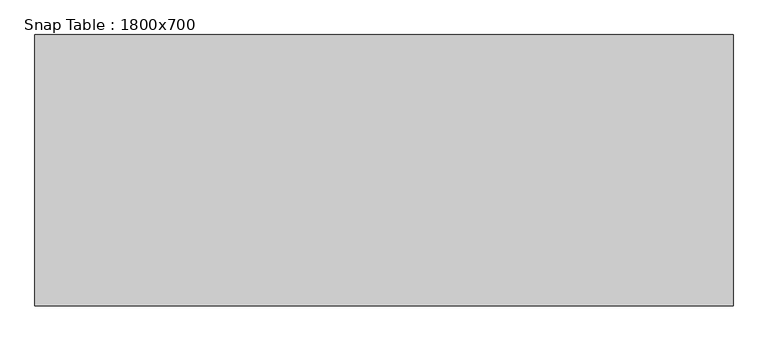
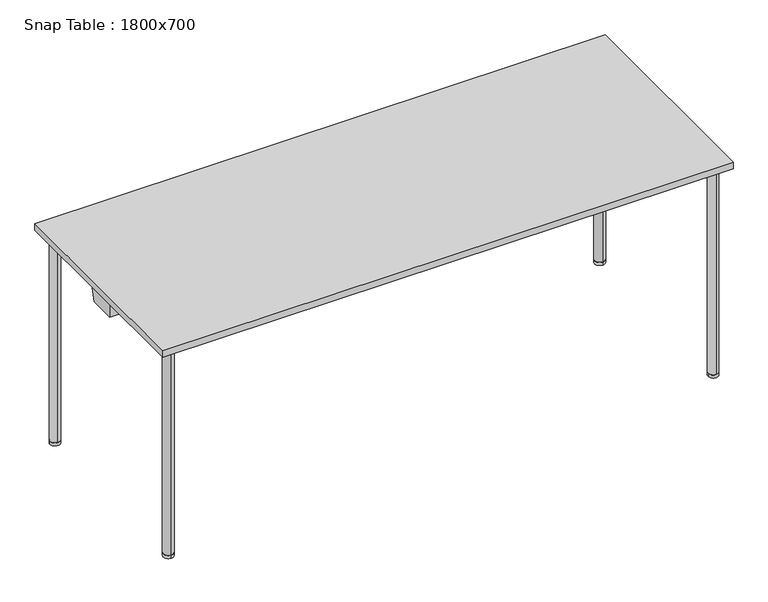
"""IFC4 building model written with IfcOpenShell, lengths in millimetres: furniture geometry, Snap Table : 1800x700."""

from ifc_helpers import new_model, si_unit, point, frame, frame_2d, origin, origin_with_axes, place, context, project, spatial, polyline, circle_curve, ellipse_curve, trimmed, segment, composite_curve, outline, extrude, faceted_brep, source, transform, mapped, element, save
from ifc_brep_helpers import plane_surface, cylinder_surface, revolved_surface, advanced_brep


def snap_table_1800x700_fe42af66(model_context):
    return source(origin(), model_context, "Body", "SolidModel", [
        extrude(outline(composite_curve([segment(trimmed(circle_curve(frame_2d((860.0, -310.0)), 16.0), [point((876.0, -310.0))], [point((844.0, -310.0))], False, "CARTESIAN"), True, "CONTINUOUS"), segment(trimmed(circle_curve(frame_2d((860.0, -310.0)), 16.0), [point((844.0, -310.0))], [point((876.0, -310.0))], False, "CARTESIAN"), True, "CONTINUOUS")], self_intersect=False)), origin_with_axes(), (0.0, 0.0, 1.0), 10.0),
        extrude(outline(composite_curve([segment(trimmed(circle_curve(frame_2d((860.0, 310.0)), 16.0), [point((860.0, 294.0))], [point((860.0, 326.0))], False, "CARTESIAN"), True, "CONTINUOUS"), segment(trimmed(circle_curve(frame_2d((860.0, 310.0)), 16.0), [point((860.0, 326.0))], [point((860.0, 294.0))], False, "CARTESIAN"), True, "CONTINUOUS")], self_intersect=False)), origin_with_axes(), (0.0, 0.0, 1.0), 10.0),
        advanced_brep(
        [(860.0, -326.0, 10.0), (860.0, -294.0, 10.0), (860.0, -326.0, 689.0), (860.0, -294.0, 657.0), (860.0, 326.0, 689.0), (860.0, 294.0, 657.0), (860.0, 326.0, 10.0), (860.0, 294.0, 10.0)],
        [
            (0, 1, circle_curve(frame((860.0, -310.0, 10.0), z_axis=(0.0, 0.0, -1.0), x_axis=(0.0, 1.0, 0.0)), 16.0)),
            (1, 0, circle_curve(frame((860.0, -310.0, 10.0), z_axis=(0.0, 0.0, -1.0), x_axis=(0.0, 1.0, 0.0)), 16.0)),
            (0, 2),
            (2, 3, ellipse_curve(frame((860.0, -310.0, 673.0), z_axis=(0.0, -0.7071067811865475, -0.7071067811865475), x_axis=(0.0, 0.7071067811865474, -0.7071067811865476)), 22.627417, 16.0)),
            (3, 1),
            (3, 2, ellipse_curve(frame((860.0, -310.0, 673.0), z_axis=(0.0, -0.7071067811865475, -0.7071067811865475), x_axis=(0.0, 0.7071067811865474, -0.7071067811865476)), 22.627417, 16.0)),
            (2, 4),
            (4, 5, ellipse_curve(frame((860.0, 310.0, 673.0), z_axis=(0.0, -0.7071067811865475, 0.7071067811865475), x_axis=(0.0, -0.7071067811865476, -0.7071067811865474)), 22.627417, 16.0)),
            (5, 3),
            (5, 4, ellipse_curve(frame((860.0, 310.0, 673.0), z_axis=(0.0, -0.7071067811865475, 0.7071067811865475), x_axis=(0.0, -0.7071067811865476, -0.7071067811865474)), 22.627417, 16.0)),
            (6, 7, circle_curve(frame((860.0, 310.0, 10.0), z_axis=(0.0, 0.0, -1.0), x_axis=(0.0, -1.0, 0.0)), 16.0)),
            (7, 6, circle_curve(frame((860.0, 310.0, 10.0), z_axis=(0.0, 0.0, -1.0), x_axis=(0.0, -1.0, 0.0)), 16.0)),
            (4, 6),
            (7, 5),
        ],
        [
            plane_surface(frame((860.0, -310.0, 10.0), z_axis=(0.0, 0.0, -1.0), x_axis=(-1.0, 0.0, 0.0))),
            cylinder_surface(frame((860.0, -310.0, 10.0), z_axis=(0.0, 0.0, -1.0), x_axis=(0.0, 1.0, 0.0)), 16.0),
            cylinder_surface(frame((860.0, -310.0, 673.0), z_axis=(0.0, -1.0, 0.0), x_axis=(0.0, 0.0, -1.0)), 16.0),
            plane_surface(frame((860.0, 310.0, 10.0), z_axis=(0.0, 0.0, -1.0), x_axis=(-1.0, 0.0, 0.0))),
            cylinder_surface(frame((860.0, 310.0, 673.0), z_axis=(0.0, 0.0, 1.0), x_axis=(0.0, -1.0, 0.0)), 16.0),
        ],
        [
            (0, [[1, 2]]),
            (1, [[-1, 3, 4, 5]]),
            (1, [[-2, -5, 6, -3]]),
            (2, [[-4, 7, 8, 9]]),
            (2, [[-6, -9, 10, -7]]),
            (3, [[11, 12]]),
            (4, [[-8, 13, -12, 14]]),
            (4, [[-10, -14, -11, -13]]),
        ],
    ),
        extrude(outline(composite_curve([segment(trimmed(circle_curve(frame_2d((-860.0470276, 310.0)), 16.0), [point((-876.0470276, 310.0))], [point((-844.0470276, 310.0))], False, "CARTESIAN"), True, "CONTINUOUS"), segment(trimmed(circle_curve(frame_2d((-860.0470276, 310.0)), 16.0), [point((-844.0470276, 310.0))], [point((-876.0470276, 310.0))], False, "CARTESIAN"), True, "CONTINUOUS")], self_intersect=False)), origin_with_axes(), (0.0, 0.0, 1.0), 10.0),
        extrude(outline(composite_curve([segment(trimmed(circle_curve(frame_2d((-860.0470276, -310.0)), 16.0), [point((-860.0470276, -294.0))], [point((-860.0470276, -326.0))], False, "CARTESIAN"), True, "CONTINUOUS"), segment(trimmed(circle_curve(frame_2d((-860.0470276, -310.0)), 16.0), [point((-860.0470276, -326.0))], [point((-860.0470276, -294.0))], False, "CARTESIAN"), True, "CONTINUOUS")], self_intersect=False)), origin_with_axes(), (0.0, 0.0, 1.0), 10.0),
        advanced_brep(
        [(-860.0470276, 326.0, 10.0), (-860.0470276, 294.0, 10.0), (-860.0470276, 326.0, 689.0), (-860.0470276, 294.0, 657.0), (-860.0470276, -326.0, 689.0), (-860.0470276, -294.0, 657.0), (-860.0470276, -326.0, 10.0), (-860.0470276, -294.0, 10.0)],
        [
            (0, 1, circle_curve(frame((-860.0470276, 310.0, 10.0), z_axis=(0.0, 0.0, -1.0), x_axis=(0.0, -1.0, 0.0)), 16.0)),
            (1, 0, circle_curve(frame((-860.0470276, 310.0, 10.0), z_axis=(0.0, 0.0, -1.0), x_axis=(0.0, -1.0, 0.0)), 16.0)),
            (0, 2),
            (2, 3, ellipse_curve(frame((-860.0470276, 310.0, 673.0), z_axis=(0.0, 0.7071067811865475, -0.7071067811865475), x_axis=(0.0, -0.7071067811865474, -0.7071067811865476)), 22.627417, 16.0)),
            (3, 1),
            (3, 2, ellipse_curve(frame((-860.0470276, 310.0, 673.0), z_axis=(0.0, 0.7071067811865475, -0.7071067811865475), x_axis=(0.0, -0.7071067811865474, -0.7071067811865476)), 22.627417, 16.0)),
            (2, 4),
            (4, 5, ellipse_curve(frame((-860.0470276, -310.0, 673.0), z_axis=(0.0, 0.7071067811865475, 0.7071067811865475), x_axis=(0.0, 0.7071067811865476, -0.7071067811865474)), 22.627417, 16.0)),
            (5, 3),
            (5, 4, ellipse_curve(frame((-860.0470276, -310.0, 673.0), z_axis=(0.0, 0.7071067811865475, 0.7071067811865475), x_axis=(0.0, 0.7071067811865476, -0.7071067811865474)), 22.627417, 16.0)),
            (6, 7, circle_curve(frame((-860.0470276, -310.0, 10.0), z_axis=(0.0, 0.0, -1.0), x_axis=(0.0, 1.0, 0.0)), 16.0)),
            (7, 6, circle_curve(frame((-860.0470276, -310.0, 10.0), z_axis=(0.0, 0.0, -1.0), x_axis=(0.0, 1.0, 0.0)), 16.0)),
            (4, 6),
            (7, 5),
        ],
        [
            plane_surface(frame((-860.0470276, 310.0, 10.0), z_axis=(0.0, 0.0, -1.0), x_axis=(1.0, 0.0, 0.0))),
            cylinder_surface(frame((-860.0470276, 310.0, 10.0), z_axis=(0.0, 0.0, -1.0), x_axis=(0.0, -1.0, 0.0)), 16.0),
            cylinder_surface(frame((-860.0470276, 310.0, 673.0), z_axis=(0.0, 1.0, 0.0), x_axis=(0.0, 0.0, -1.0)), 16.0),
            plane_surface(frame((-860.0470276, -310.0, 10.0), z_axis=(0.0, 0.0, -1.0), x_axis=(1.0, 0.0, 0.0))),
            cylinder_surface(frame((-860.0470276, -310.0, 673.0), z_axis=(0.0, 0.0, 1.0), x_axis=(0.0, 1.0, 0.0)), 16.0),
        ],
        [
            (0, [[1, 2]]),
            (1, [[-1, 3, 4, 5]]),
            (1, [[-2, -5, 6, -3]]),
            (2, [[-4, 7, 8, 9]]),
            (2, [[-6, -9, 10, -7]]),
            (3, [[11, 12]]),
            (4, [[-8, 13, -12, 14]]),
            (4, [[-10, -14, -11, -13]]),
        ],
    ),
        extrude(outline(polyline([(900.0, 350.0), (900.0, -350.0), (-900.0, -350.0), (-900.0, 350.0), (900.0, 350.0)])), frame((0.0, 0.0, 698.0), z_axis=(0.0, 0.0, 1.0), x_axis=(1.0, 0.0, 0.0)), (0.0, 0.0, 1.0), 22.0),
        advanced_brep(
        [(-890.8110657, 42.2236058, 643.0), (-857.6910354, 44.5767873, 643.0), (-840.5708933, 36.0824003, 643.0), (840.5710292, 36.0824678, 643.0), (857.6910354, 44.5767873, 643.0), (890.8110657, 42.2236058, 643.0), (890.8110657, -42.2236058, 643.0), (857.6044607, -44.2417031, 643.0), (840.4018781, -36.0497649, 643.0), (-840.4020196, -36.0498323, 643.0), (-857.6044607, -44.2417031, 643.0), (-890.8110657, -42.2236058, 643.0), (-894.8110657, 48.9570516, 698.0), (-894.8110657, -48.9934252, 698.0), (-856.225892, -51.3383995, 698.0), (-834.6205129, -41.049832, 698.0), (834.6203726, -41.0497652, 698.0), (856.225892, -51.3383995, 698.0), (894.8110657, -48.9934252, 698.0), (894.8110657, 48.9570516, 698.0), (856.286594, 51.6942192, 698.0), (834.8989768, 41.0824675, 698.0), (-834.8988421, 41.0824006, 698.0), (-856.286594, 51.6942192, 698.0), (-857.2475737, -46.0789118, 657.2385232), (-876.0, -46.9489596, 673.0), (-856.4614069, -50.125999, 688.6037931), (-844.0, -41.9922101, 673.0), (857.2475737, -46.0789118, 657.2385232), (844.0, -41.9922101, 673.0), (856.4614069, -50.125999, 688.6037931), (876.0, -46.9489596, 673.0), (857.3278029, 46.4175782, 657.2247231), (876.0, 47.1037405, 673.0), (856.5261576, 50.4801582, 688.618336), (844.0, 42.0461233, 673.0), (-857.3278029, 46.4175782, 657.2247231), (-844.0, 42.0461233, 673.0), (-856.5261576, 50.4801582, 688.618336), (-876.0, 47.1037405, 673.0)],
        [
            (0, 1),
            (1, 2),
            (2, 3),
            (3, 4),
            (4, 5),
            (5, 6),
            (6, 7),
            (7, 8),
            (8, 9),
            (9, 10),
            (10, 11),
            (11, 0),
            (12, 13),
            (13, 14),
            (14, 15),
            (15, 16),
            (16, 17),
            (17, 18),
            (18, 19),
            (19, 20),
            (20, 21),
            (21, 22),
            (22, 23),
            (23, 12),
            (11, 13),
            (12, 0),
            (10, 24),
            (24, 25, ellipse_curve(frame((-860.0, -47.9213432, 673.0), z_axis=(0.060176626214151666, 0.9901710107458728, 0.12625427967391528), x_axis=(0.426028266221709, -0.13986196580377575, 0.8938336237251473)), 16.1588249, 16.0)),
            (25, 26, ellipse_curve(frame((-860.0, -47.9213432, 673.0), z_axis=(0.060176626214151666, 0.9901710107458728, 0.12625427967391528), x_axis=(0.426028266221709, -0.13986196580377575, 0.8938336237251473)), 16.1588249, 16.0)),
            (26, 14),
            (9, 15),
            (26, 27, ellipse_curve(frame((-860.0, -49.6114737, 673.0), z_axis=(-0.4265030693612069, 0.8956310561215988, 0.12625427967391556), x_axis=(-0.8587935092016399, -0.44479771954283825, 0.25422174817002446)), 17.8644989, 16.0)),
            (27, 24, ellipse_curve(frame((-860.0, -49.6114737, 673.0), z_axis=(-0.4265030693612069, 0.8956310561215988, 0.12625427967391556), x_axis=(-0.8587935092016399, -0.44479771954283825, 0.25422174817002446)), 17.8644989, 16.0)),
            (8, 16),
            (7, 28),
            (28, 29, ellipse_curve(frame((860.0, -49.6114737, 673.0), z_axis=(0.4265030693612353, 0.8956310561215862, 0.12625427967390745), x_axis=(0.8587935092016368, -0.44479771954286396, 0.2542217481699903)), 17.8644989, 16.0)),
            (29, 30, ellipse_curve(frame((860.0, -49.6114737, 673.0), z_axis=(0.4265030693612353, 0.8956310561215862, 0.12625427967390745), x_axis=(0.8587935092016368, -0.44479771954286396, 0.2542217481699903)), 17.8644989, 16.0)),
            (30, 17),
            (6, 18),
            (30, 31, ellipse_curve(frame((860.0, -47.9213432, 673.0), z_axis=(-0.060176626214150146, 0.9901710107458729, 0.12625427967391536), x_axis=(-0.4260282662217, -0.13986196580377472, 0.8938336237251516)), 16.1588249, 16.0)),
            (31, 28, ellipse_curve(frame((860.0, -47.9213432, 673.0), z_axis=(-0.060176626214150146, 0.9901710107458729, 0.12625427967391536), x_axis=(-0.4260282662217, -0.13986196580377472, 0.8938336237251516)), 16.1588249, 16.0)),
            (5, 19),
            (4, 32),
            (32, 33, ellipse_curve(frame((860.0, 48.2405422, 673.0), z_axis=(-0.07030432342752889, -0.9895034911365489, 0.12625427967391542), x_axis=(0.4813983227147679, -0.14450896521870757, -0.8645072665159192)), 16.1697257, 16.0)),
            (33, 34, ellipse_curve(frame((860.0, 48.2405422, 673.0), z_axis=(-0.07030432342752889, -0.9895034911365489, 0.12625427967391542), x_axis=(0.4813983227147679, -0.14450896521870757, -0.8645072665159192)), 16.1697257, 16.0)),
            (34, 20),
            (3, 21),
            (34, 35, ellipse_curve(frame((860.0, 49.9847369, 673.0), z_axis=(0.4409053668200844, -0.8886294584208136, 0.12625427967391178), x_axis=(-0.8542943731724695, -0.4586258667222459, -0.24462918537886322)), 18.005255, 16.0)),
            (35, 32, ellipse_curve(frame((860.0, 49.9847369, 673.0), z_axis=(0.4409053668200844, -0.8886294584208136, 0.12625427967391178), x_axis=(-0.8542943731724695, -0.4586258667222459, -0.24462918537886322)), 18.005255, 16.0)),
            (2, 22),
            (1, 36),
            (36, 37, ellipse_curve(frame((-860.0, 49.9847369, 673.0), z_axis=(-0.44090536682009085, -0.8886294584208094, 0.12625427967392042), x_axis=(0.8542943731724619, -0.45862586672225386, -0.24462918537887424)), 18.005255, 16.0)),
            (37, 38, ellipse_curve(frame((-860.0, 49.9847369, 673.0), z_axis=(-0.44090536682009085, -0.8886294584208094, 0.12625427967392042), x_axis=(0.8542943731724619, -0.45862586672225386, -0.24462918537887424)), 18.005255, 16.0)),
            (38, 23),
            (38, 39, ellipse_curve(frame((-860.0, 48.2405422, 673.0), z_axis=(0.07030432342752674, -0.9895034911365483, 0.12625427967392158), x_axis=(-0.48139832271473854, -0.14450896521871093, -0.8645072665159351)), 16.1697257, 16.0)),
            (39, 36, ellipse_curve(frame((-860.0, 48.2405422, 673.0), z_axis=(0.07030432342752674, -0.9895034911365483, 0.12625427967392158), x_axis=(-0.48139832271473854, -0.14450896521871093, -0.8645072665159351)), 16.1697257, 16.0)),
            (35, 29),
            (31, 33),
            (39, 25),
            (27, 37),
        ],
        [
            plane_surface(frame((-5e-07, 0.0612866, 643.0), z_axis=(0.0, 0.0, -1.0), x_axis=(0.0, -1.0, 0.0))),
            plane_surface(frame((-5e-07, 0.0586803, 698.0), z_axis=(0.0, 0.0, 1.0), x_axis=(0.0, -1.0, 0.0))),
            plane_surface(frame((-894.8110657, -0.0181868, 698.0), z_axis=(-0.9973658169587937, 0.0, -0.07253569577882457), x_axis=(0.0, 1.0, 0.0))),
            plane_surface(frame((-875.5184789, -50.1659123, 698.0), z_axis=(-0.060176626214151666, -0.9901710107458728, -0.12625427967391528), x_axis=(-0.9981583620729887, 0.06066204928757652, 0.0))),
            plane_surface(frame((-845.4232025, -46.1941158, 698.0), z_axis=(0.4265030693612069, -0.8956310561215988, -0.12625427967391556), x_axis=(-0.9028557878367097, -0.4299435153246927, 0.0))),
            plane_surface(frame((-7.01e-05, -41.0497986, 698.0), z_axis=(3.994004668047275e-08, -0.9958932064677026, -0.09053574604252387), x_axis=(-0.9999999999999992, -4.010474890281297e-08, 0.0))),
            plane_surface(frame((845.4231323, -46.1940824, 698.0), z_axis=(-0.4265030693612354, -0.8956310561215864, -0.12625427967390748), x_axis=(-0.9028557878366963, 0.42994351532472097, 0.0))),
            plane_surface(frame((875.5184789, -50.1659123, 698.0), z_axis=(0.060176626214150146, -0.9901710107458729, -0.12625427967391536), x_axis=(-0.9981583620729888, -0.06066204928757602, 0.0))),
            plane_surface(frame((894.8110657, -0.0181868, 698.0), z_axis=(0.997365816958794, 0.0, -0.07253569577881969), x_axis=(0.0, -1.0, 0.0))),
            plane_surface(frame((875.5488298, 50.3256354, 698.0), z_axis=(0.07030432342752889, 0.9895034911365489, -0.12625427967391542), x_axis=(0.9974854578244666, -0.07087144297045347, 0.0))),
            plane_surface(frame((845.5927854, 46.3883433, 698.0), z_axis=(-0.4409053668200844, 0.8886294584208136, -0.12625427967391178), x_axis=(0.8957977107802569, 0.44446199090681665, 0.0))),
            plane_surface(frame((6.73e-05, 41.082434, 698.0), z_axis=(-3.994255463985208e-08, 0.9958932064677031, -0.0905357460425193), x_axis=(0.9999999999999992, 4.010726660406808e-08, 0.0))),
            plane_surface(frame((-845.5927181, 46.3883099, 698.0), z_axis=(0.44090536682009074, 0.8886294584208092, -0.1262542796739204), x_axis=(0.8957977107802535, -0.4444619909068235, 0.0))),
            plane_surface(frame((-875.5488298, 50.3256354, 698.0), z_axis=(-0.07030432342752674, 0.9895034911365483, -0.12625427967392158), x_axis=(0.9974854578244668, 0.07087144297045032, 0.0))),
            revolved_surface(polyline([(876.0, -57.55756207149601, 673.0), (876.0, 58.242412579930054, 673.0)]), (860.0, 70.0, 673.0), (0.0, -1.0, 0.0)),
            revolved_surface(polyline([(-876.0, -57.55756207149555, 673.0), (-876.0, 58.242412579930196, 673.0)]), (-860.0, 70.0, 673.0), (0.0, -1.0, 0.0)),
        ],
        [
            (0, [[1, 2, 3, 4, 5, 6, 7, 8, 9, 10, 11, 12]]),
            (1, [[13, 14, 15, 16, 17, 18, 19, 20, 21, 22, 23, 24]]),
            (2, [[-12, 25, -13, 26]]),
            (3, [[-11, 27, 28, 29, 30, -14, -25]]),
            (4, [[-10, 31, -15, -30, 32, 33, -27]]),
            (5, [[-9, 34, -16, -31]]),
            (6, [[-8, 35, 36, 37, 38, -17, -34]]),
            (7, [[-7, 39, -18, -38, 40, 41, -35]]),
            (8, [[-6, 42, -19, -39]]),
            (9, [[-5, 43, 44, 45, 46, -20, -42]]),
            (10, [[-4, 47, -21, -46, 48, 49, -43]]),
            (11, [[-3, 50, -22, -47]]),
            (12, [[-2, 51, 52, 53, 54, -23, -50]]),
            (13, [[-1, -26, -24, -54, 55, 56, -51]]),
            (14, [[57, -36, -41, 58, -44, -49]]),
            (14, [[-57, -48, -45, -58, -40, -37]]),
            (15, [[59, -28, -33, 60, -52, -56]]),
            (15, [[-59, -55, -53, -60, -32, -29]]),
        ],
    ),
        faceted_brep([(830.1271057, 232.1409864, 643.0), (830.1271057, 277.0366315, 643.0), (841.3990784, 277.0366315, 643.0), (841.3990784, 232.1409864, 643.0), (826.2186584, 228.0138349, 688.0), (844.2631531, 228.0138349, 688.0), (844.2631531, 281.163783, 688.0), (826.2186584, 281.163783, 688.0)], [[[0, 1, 2, 3]], [[4, 5, 6, 7]], [[5, 4, 0, 3]], [[6, 5, 3, 2]], [[7, 6, 2, 1]], [[4, 7, 1, 0]]]),
        extrude(outline(polyline([(826.2186584, 281.163783), (877.86026, 281.163783), (877.86026, 228.0138349), (826.2186584, 228.0138349), (826.2186584, 281.163783)])), frame((0.0, 0.0, 688.0), z_axis=(0.0, 0.0, 1.0), x_axis=(1.0, 0.0, 0.0)), (0.0, 0.0, 1.0), 10.0),
        faceted_brep([(830.1271057, -232.1409864, 643.0), (841.3990784, -232.1409864, 643.0), (841.3990784, -277.0366315, 643.0), (830.1271057, -277.0366315, 643.0), (826.2186584, -228.0138349, 688.0), (826.2186584, -281.163783, 688.0), (844.2631531, -281.163783, 688.0), (844.2631531, -228.0138349, 688.0)], [[[0, 1, 2, 3]], [[4, 5, 6, 7]], [[4, 7, 1, 0]], [[7, 6, 2, 1]], [[6, 5, 3, 2]], [[5, 4, 0, 3]]]),
        extrude(outline(polyline([(826.2186584, -281.163783), (826.2186584, -228.0138349), (877.86026, -228.0138349), (877.86026, -281.163783), (826.2186584, -281.163783)])), frame((0.0, 0.0, 688.0), z_axis=(0.0, 0.0, 1.0), x_axis=(1.0, 0.0, 0.0)), (0.0, 0.0, 1.0), 10.0),
        faceted_brep([(-830.1271057, 232.1409864, 643.0), (-841.3990784, 232.1409864, 643.0), (-841.3990784, 277.0366315, 643.0), (-830.1271057, 277.0366315, 643.0), (-826.2186584, 228.0138349, 688.0), (-826.2186584, 281.163783, 688.0), (-844.2631531, 281.163783, 688.0), (-844.2631531, 228.0138349, 688.0)], [[[0, 1, 2, 3]], [[4, 5, 6, 7]], [[4, 7, 1, 0]], [[7, 6, 2, 1]], [[6, 5, 3, 2]], [[5, 4, 0, 3]]]),
        extrude(outline(polyline([(-826.2186584, 281.163783), (-826.2186584, 228.0138349), (-877.86026, 228.0138349), (-877.86026, 281.163783), (-826.2186584, 281.163783)])), frame((0.0, 0.0, 688.0), z_axis=(0.0, 0.0, 1.0), x_axis=(1.0, 0.0, 0.0)), (0.0, 0.0, 1.0), 10.0),
        faceted_brep([(-830.1271057, -232.1409864, 643.0), (-830.1271057, -277.0366315, 643.0), (-841.3990784, -277.0366315, 643.0), (-841.3990784, -232.1409864, 643.0), (-826.2186584, -228.0138349, 688.0), (-844.2631531, -228.0138349, 688.0), (-844.2631531, -281.163783, 688.0), (-826.2186584, -281.163783, 688.0)], [[[0, 1, 2, 3]], [[4, 5, 6, 7]], [[5, 4, 0, 3]], [[6, 5, 3, 2]], [[7, 6, 2, 1]], [[4, 7, 1, 0]]]),
        extrude(outline(polyline([(-826.2186584, -281.163783), (-877.86026, -281.163783), (-877.86026, -228.0138349), (-826.2186584, -228.0138349), (-826.2186584, -281.163783)])), frame((0.0, 0.0, 688.0), z_axis=(0.0, 0.0, 1.0), x_axis=(1.0, 0.0, 0.0)), (0.0, 0.0, 1.0), 10.0),
    ])


if __name__ == "__main__":
    model = new_model("IFC4")
    model_context = context("Model", 3, world=origin())
    ifc_project = project(units=[si_unit("LENGTHUNIT", "METRE", prefix="MILLI")], contexts=[model_context])
    site = spatial("IfcSite", under=ifc_project)
    building = spatial("IfcBuilding", under=site)
    placement = place(None, origin())
    snap_table_1800x700_shape = snap_table_1800x700_fe42af66(model_context)
    element("IfcFurniture", 1, ObjectType="Snap Table : 1800x700", at=placement, inside=building, context=model_context, shape_type="MappedRepresentation", body=[
        mapped(snap_table_1800x700_shape, transform((0.0, 0.0, 0.0), x_axis=(1.0, 0.0, 0.0), y_axis=(0.0, 1.0, 0.0), z_axis=(0.0, 0.0, 1.0))),
    ])
    save(model, "model.ifc")
